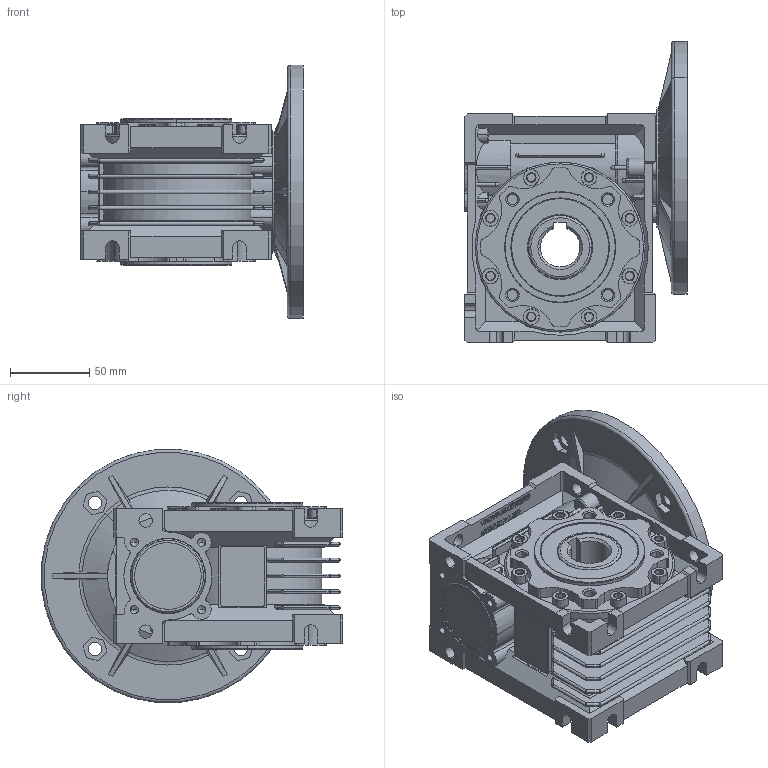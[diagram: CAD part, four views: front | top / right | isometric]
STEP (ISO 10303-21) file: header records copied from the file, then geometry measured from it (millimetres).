
FILE_DESCRIPTION (( 'STEP AP203' ), '1' );
FILE_NAME ('NMRV050-71B5andantex.STEP', '2023-07-17T03:36:42', ( '' ), ( '' ), 'SwSTEP 2.0', 'SolidWorks 2020', '' );
FILE_SCHEMA (( 'CONFIG_CONTROL_DESIGN' ));
Products named in the file (1): NMRV050-71B5andantex
Bounding box: 140 x 189.7 x 159.39 mm (x, y, z)
Volume: 1134208.8 mm3; surface area: 239998.8 mm2
Topology: 25 solids, 31 shells, 1815 faces, 4919 edges, 3175 vertices
Faces by surface type: plane 901, cylinder 526, bspline 133, cone 112, torus 111, sphere 32
Entity records: 67464 total; most frequent: CARTESIAN_POINT 22327, ORIENTED_EDGE 9758, DIRECTION 8930, EDGE_CURVE 4879, VERTEX_POINT 3165, AXIS2_PLACEMENT_3D 2996, VECTOR 2938, LINE 2938
